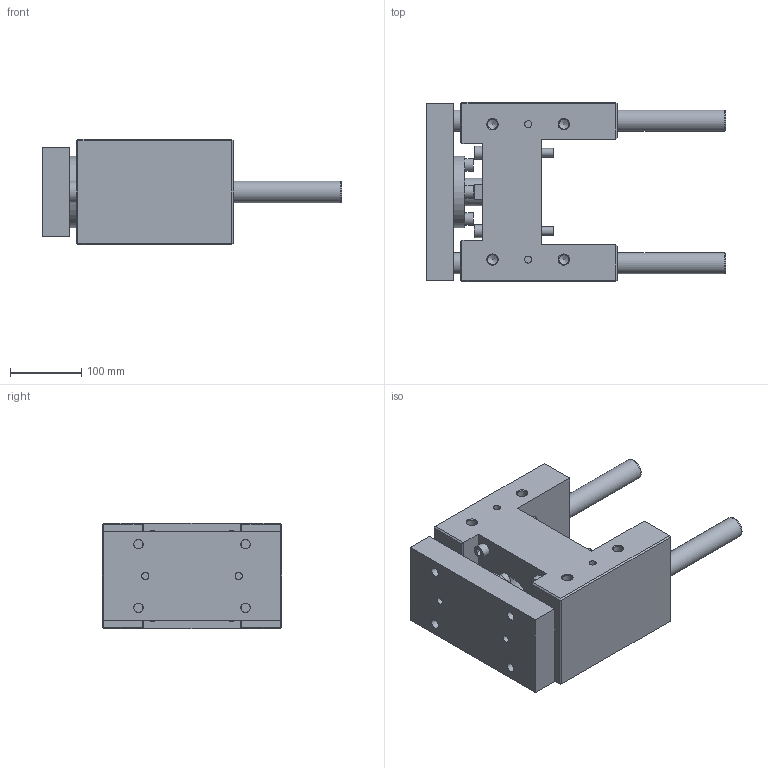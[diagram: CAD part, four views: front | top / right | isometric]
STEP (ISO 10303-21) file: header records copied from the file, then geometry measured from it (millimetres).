
FILE_DESCRIPTION( ( 'STEP AP214' ), '1' );
FILE_NAME( 'U:/Etudes/Top Solid/BIBLIO 3D AVM/TOP/PNEUMATIQUE/GUIDAGES/Type 32 (en H)/R_Renforcée/320R2_30.step', '2005-05-27T08:39:21', ( ' ' ), ( ' ' ), 'XStep 1.0', ' ', ' ' );
FILE_SCHEMA( ( 'automotive_design' ) );
Length unit declared in the file: metre
Products named in the file (2): 1; 2
Bounding box: 420 x 252 x 148 mm (x, y, z)
Volume: 6487217.1 mm3; surface area: 535981.8 mm2
Topology: 2 solids, 7 shells, 238 faces, 524 edges, 339 vertices
Faces by surface type: plane 149, cylinder 68, cone 21
Full cylindrical faces by diameter (mm): 10 x4, 10.106 x4, 12 x16, 13 x12, 13.835 x8, 18 x8, 20 x4, 24.835 x1, 30 x4, 39 x1, 42 x1, 57 x1, 60 x2, 65 x1, 100 x1
Entity records: 7905 total; most frequent: CARTESIAN_POINT 1198, DIRECTION 996, ORIENTED_EDGE 784, EDGE_CURVE 392, EDGE_LOOP 390, AXIS2_PLACEMENT_3D 372, FACE_OUTER_BOUND 306, VERTEX_POINT 302
